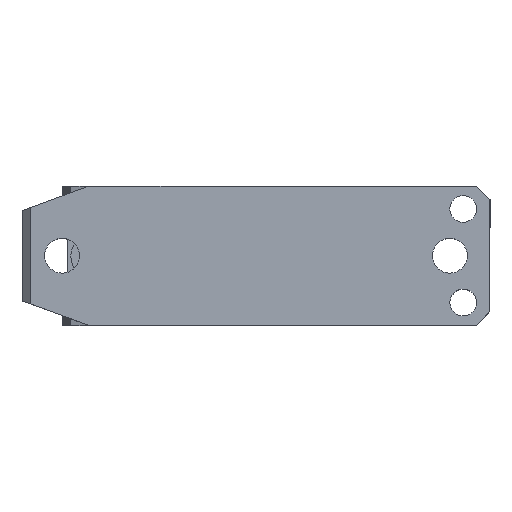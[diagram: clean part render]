
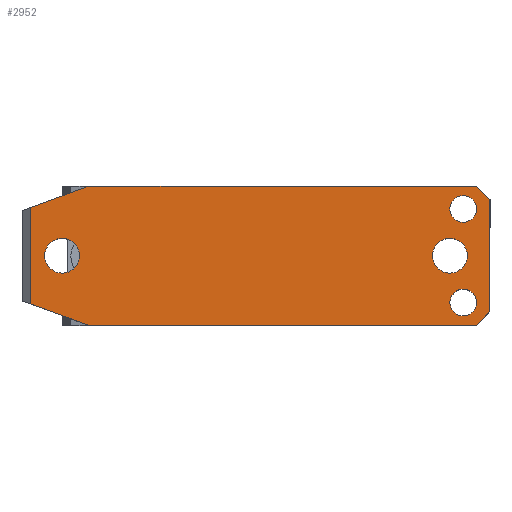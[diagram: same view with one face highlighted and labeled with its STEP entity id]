
A CAD part, top view. The second image highlights one B-rep face of the part: STEP entity #2952.
In plain terms, the highlighted planar face has unit normal (0, 0, 1).
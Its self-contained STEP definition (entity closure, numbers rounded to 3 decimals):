
#52 = CARTESIAN_POINT ( 'NONE',  ( -2., 0., 125. ) ) ;
#104 = LINE ( 'NONE', #5285, #9614 ) ;
#175 = EDGE_CURVE ( 'NONE', #11026, #11182, #8167, .T. ) ;
#183 = CARTESIAN_POINT ( 'NONE',  ( 153., 26., 125. ) ) ;
#233 = CARTESIAN_POINT ( 'NONE',  ( -2., 0., 125. ) ) ;
#560 = ORIENTED_EDGE ( 'NONE', *, *, #7445, .T. ) ;
#761 = VERTEX_POINT ( 'NONE', #10938 ) ;
#811 = CARTESIAN_POINT ( 'NONE',  ( -17., 16.901, 125. ) ) ;
#966 = DIRECTION ( 'NONE',  ( -1., 0., 0. ) ) ;
#1047 = DIRECTION ( 'NONE',  ( 0., 0., -1. ) ) ;
#1102 = DIRECTION ( 'NONE',  ( 0.707, -0.707, 0. ) ) ;
#1126 = CARTESIAN_POINT ( 'NONE',  ( 148., 17.5, 125. ) ) ;
#1176 = DIRECTION ( 'NONE',  ( -1., 0., 0. ) ) ;
#1211 = EDGE_CURVE ( 'NONE', #6724, #11054, #104, .T. ) ;
#1360 = AXIS2_PLACEMENT_3D ( 'NONE', #10586, #10540, #10313 ) ;
#1378 = CARTESIAN_POINT ( 'NONE',  ( 148., -17.5, 125. ) ) ;
#1381 = CIRCLE ( 'NONE', #2228, 5. ) ;
#1602 = VECTOR ( 'NONE', #8642, 1000. ) ;
#1707 = CARTESIAN_POINT ( 'NONE',  ( 143., 0., 125. ) ) ;
#1807 = EDGE_CURVE ( 'NONE', #761, #2510, #1381, .T. ) ;
#1955 = VECTOR ( 'NONE', #4390, 1000. ) ;
#1957 = CARTESIAN_POINT ( 'NONE',  ( 158., 21., 125. ) ) ;
#2064 = DIRECTION ( 'NONE',  ( -1., 0., 0. ) ) ;
#2103 = CIRCLE ( 'NONE', #2925, 6.5 ) ;
#2110 = EDGE_CURVE ( 'NONE', #2510, #761, #11078, .T. ) ;
#2165 = VERTEX_POINT ( 'NONE', #10407 ) ;
#2228 = AXIS2_PLACEMENT_3D ( 'NONE', #9043, #3535, #9988 ) ;
#2255 = EDGE_LOOP ( 'NONE', ( #7073, #2284 ) ) ;
#2284 = ORIENTED_EDGE ( 'NONE', *, *, #9055, .T. ) ;
#2312 = DIRECTION ( 'NONE',  ( -1., 0., 0. ) ) ;
#2327 = VECTOR ( 'NONE', #3971, 1000. ) ;
#2360 = ORIENTED_EDGE ( 'NONE', *, *, #1211, .F. ) ;
#2510 = VERTEX_POINT ( 'NONE', #3707 ) ;
#2547 = CARTESIAN_POINT ( 'NONE',  ( 4.5, 0., 125. ) ) ;
#2642 = DIRECTION ( 'NONE',  ( -1., 0., 0. ) ) ;
#2895 = ORIENTED_EDGE ( 'NONE', *, *, #8419, .T. ) ;
#2925 = AXIS2_PLACEMENT_3D ( 'NONE', #1707, #8144, #2642 ) ;
#2935 = VERTEX_POINT ( 'NONE', #2547 ) ;
#2949 = EDGE_CURVE ( 'NONE', #4973, #2165, #2103, .T. ) ;
#2952 = ADVANCED_FACE ( 'NONE', ( #11636, #9167, #9456, #6726, #4274 ), #5403, .F. ) ;
#3185 = ORIENTED_EDGE ( 'NONE', *, *, #2110, .T. ) ;
#3219 = EDGE_CURVE ( 'NONE', #3619, #8653, #9003, .T. ) ;
#3240 = ORIENTED_EDGE ( 'NONE', *, *, #3915, .F. ) ;
#3302 = VECTOR ( 'NONE', #1102, 1000. ) ;
#3535 = DIRECTION ( 'NONE',  ( 0., 0., -1. ) ) ;
#3567 = DIRECTION ( 'NONE',  ( -1., 0., 0. ) ) ;
#3619 = VERTEX_POINT ( 'NONE', #10493 ) ;
#3624 = CARTESIAN_POINT ( 'NONE',  ( 153., -17.5, 125. ) ) ;
#3707 = CARTESIAN_POINT ( 'NONE',  ( 153., 17.5, 125. ) ) ;
#3739 = ORIENTED_EDGE ( 'NONE', *, *, #8284, .T. ) ;
#3820 = LINE ( 'NONE', #5858, #10871 ) ;
#3839 = EDGE_LOOP ( 'NONE', ( #9235, #3185 ) ) ;
#3915 = EDGE_CURVE ( 'NONE', #7447, #3619, #9150, .T. ) ;
#3960 = CARTESIAN_POINT ( 'NONE',  ( 8., -26., 125. ) ) ;
#3971 = DIRECTION ( 'NONE',  ( 1., 0., 0. ) ) ;
#4093 = ORIENTED_EDGE ( 'NONE', *, *, #2949, .T. ) ;
#4137 = EDGE_LOOP ( 'NONE', ( #3739, #4093 ) ) ;
#4160 = ORIENTED_EDGE ( 'NONE', *, *, #10103, .F. ) ;
#4195 = EDGE_CURVE ( 'NONE', #10674, #7063, #3820, .T. ) ;
#4212 = CIRCLE ( 'NONE', #10199, 6.5 ) ;
#4274 = FACE_OUTER_BOUND ( 'NONE', #10759, .T. ) ;
#4362 = DIRECTION ( 'NONE',  ( -0.707, -0.707, 0. ) ) ;
#4390 = DIRECTION ( 'NONE',  ( 1., 0., 0. ) ) ;
#4712 = CARTESIAN_POINT ( 'NONE',  ( 158., -21., 125. ) ) ;
#4847 = CARTESIAN_POINT ( 'NONE',  ( 143., -17.5, 125. ) ) ;
#4973 = VERTEX_POINT ( 'NONE', #10418 ) ;
#5085 = LINE ( 'NONE', #10421, #2327 ) ;
#5221 = CARTESIAN_POINT ( 'NONE',  ( -14., -17.993, 125. ) ) ;
#5285 = CARTESIAN_POINT ( 'NONE',  ( 153., -26., 125. ) ) ;
#5315 = CIRCLE ( 'NONE', #7165, 6.5 ) ;
#5403 = PLANE ( 'NONE',  #5421 ) ;
#5421 = AXIS2_PLACEMENT_3D ( 'NONE', #11849, #9087, #3567 ) ;
#5479 = ORIENTED_EDGE ( 'NONE', *, *, #3219, .F. ) ;
#5684 = VECTOR ( 'NONE', #5876, 1000. ) ;
#5858 = CARTESIAN_POINT ( 'NONE',  ( -17., -16.901, 125. ) ) ;
#5874 = CARTESIAN_POINT ( 'NONE',  ( 158., 26., 125. ) ) ;
#5876 = DIRECTION ( 'NONE',  ( 0., -1., 0. ) ) ;
#6043 = ORIENTED_EDGE ( 'NONE', *, *, #4195, .F. ) ;
#6298 = EDGE_CURVE ( 'NONE', #9672, #6724, #6819, .T. ) ;
#6352 = CIRCLE ( 'NONE', #11811, 5. ) ;
#6409 = VERTEX_POINT ( 'NONE', #9694 ) ;
#6497 = DIRECTION ( 'NONE',  ( 0., 0., -1. ) ) ;
#6565 = CARTESIAN_POINT ( 'NONE',  ( 143., 0., 125. ) ) ;
#6701 = DIRECTION ( 'NONE',  ( 0., 0., -1. ) ) ;
#6714 = VECTOR ( 'NONE', #9123, 1000. ) ;
#6724 = VERTEX_POINT ( 'NONE', #4712 ) ;
#6726 = FACE_BOUND ( 'NONE', #4137, .T. ) ;
#6819 = LINE ( 'NONE', #5874, #1602 ) ;
#6842 = EDGE_CURVE ( 'NONE', #10674, #11054, #5085, .T. ) ;
#7063 = VERTEX_POINT ( 'NONE', #5221 ) ;
#7073 = ORIENTED_EDGE ( 'NONE', *, *, #10615, .T. ) ;
#7165 = AXIS2_PLACEMENT_3D ( 'NONE', #6565, #1047, #7492 ) ;
#7357 = AXIS2_PLACEMENT_3D ( 'NONE', #233, #6701, #1176 ) ;
#7445 = EDGE_CURVE ( 'NONE', #11182, #11026, #6352, .T. ) ;
#7447 = VERTEX_POINT ( 'NONE', #10580 ) ;
#7477 = ORIENTED_EDGE ( 'NONE', *, *, #175, .T. ) ;
#7492 = DIRECTION ( 'NONE',  ( -1., 0., 0. ) ) ;
#7559 = AXIS2_PLACEMENT_3D ( 'NONE', #1126, #7577, #2064 ) ;
#7577 = DIRECTION ( 'NONE',  ( 0., 0., -1. ) ) ;
#7825 = DIRECTION ( 'NONE',  ( 0., 0., -1. ) ) ;
#8028 = CARTESIAN_POINT ( 'NONE',  ( -17., 26., 125. ) ) ;
#8098 = LINE ( 'NONE', #8597, #5684 ) ;
#8144 = DIRECTION ( 'NONE',  ( 0., 0., -1. ) ) ;
#8167 = CIRCLE ( 'NONE', #1360, 5. ) ;
#8284 = EDGE_CURVE ( 'NONE', #2165, #4973, #5315, .T. ) ;
#8419 = EDGE_CURVE ( 'NONE', #7447, #7063, #8098, .T. ) ;
#8597 = CARTESIAN_POINT ( 'NONE',  ( -14., 26., 125. ) ) ;
#8599 = EDGE_LOOP ( 'NONE', ( #560, #7477 ) ) ;
#8642 = DIRECTION ( 'NONE',  ( 0., -1., 0. ) ) ;
#8653 = VERTEX_POINT ( 'NONE', #8676 ) ;
#8676 = CARTESIAN_POINT ( 'NONE',  ( 153., 26., 125. ) ) ;
#9003 = LINE ( 'NONE', #8028, #1955 ) ;
#9043 = CARTESIAN_POINT ( 'NONE',  ( 148., 17.5, 125. ) ) ;
#9055 = EDGE_CURVE ( 'NONE', #2935, #6409, #4212, .T. ) ;
#9087 = DIRECTION ( 'NONE',  ( 0., 0., -1. ) ) ;
#9123 = DIRECTION ( 'NONE',  ( 0.94, 0.342, 0. ) ) ;
#9150 = LINE ( 'NONE', #811, #6714 ) ;
#9167 = FACE_BOUND ( 'NONE', #3839, .T. ) ;
#9218 = CARTESIAN_POINT ( 'NONE',  ( 153., -26., 125. ) ) ;
#9235 = ORIENTED_EDGE ( 'NONE', *, *, #1807, .T. ) ;
#9456 = FACE_BOUND ( 'NONE', #2255, .T. ) ;
#9506 = ORIENTED_EDGE ( 'NONE', *, *, #6298, .F. ) ;
#9614 = VECTOR ( 'NONE', #4362, 1000. ) ;
#9672 = VERTEX_POINT ( 'NONE', #1957 ) ;
#9694 = CARTESIAN_POINT ( 'NONE',  ( -8.5, 0., 125. ) ) ;
#9988 = DIRECTION ( 'NONE',  ( -1., 0., 0. ) ) ;
#10090 = LINE ( 'NONE', #183, #3302 ) ;
#10103 = EDGE_CURVE ( 'NONE', #8653, #9672, #10090, .T. ) ;
#10199 = AXIS2_PLACEMENT_3D ( 'NONE', #52, #6497, #966 ) ;
#10313 = DIRECTION ( 'NONE',  ( -1., 0., 0. ) ) ;
#10407 = CARTESIAN_POINT ( 'NONE',  ( 136.5, 0., 125. ) ) ;
#10418 = CARTESIAN_POINT ( 'NONE',  ( 149.5, 0., 125. ) ) ;
#10421 = CARTESIAN_POINT ( 'NONE',  ( -17., -26., 125. ) ) ;
#10449 = DIRECTION ( 'NONE',  ( -0.94, 0.342, 0. ) ) ;
#10493 = CARTESIAN_POINT ( 'NONE',  ( 8., 26., 125. ) ) ;
#10540 = DIRECTION ( 'NONE',  ( 0., 0., -1. ) ) ;
#10580 = CARTESIAN_POINT ( 'NONE',  ( -14., 17.993, 125. ) ) ;
#10586 = CARTESIAN_POINT ( 'NONE',  ( 148., -17.5, 125. ) ) ;
#10615 = EDGE_CURVE ( 'NONE', #6409, #2935, #11668, .T. ) ;
#10674 = VERTEX_POINT ( 'NONE', #3960 ) ;
#10759 = EDGE_LOOP ( 'NONE', ( #3240, #2895, #6043, #11648, #2360, #9506, #4160, #5479 ) ) ;
#10871 = VECTOR ( 'NONE', #10449, 1000. ) ;
#10938 = CARTESIAN_POINT ( 'NONE',  ( 143., 17.5, 125. ) ) ;
#11026 = VERTEX_POINT ( 'NONE', #3624 ) ;
#11054 = VERTEX_POINT ( 'NONE', #9218 ) ;
#11078 = CIRCLE ( 'NONE', #7559, 5. ) ;
#11182 = VERTEX_POINT ( 'NONE', #4847 ) ;
#11636 = FACE_BOUND ( 'NONE', #8599, .T. ) ;
#11648 = ORIENTED_EDGE ( 'NONE', *, *, #6842, .T. ) ;
#11668 = CIRCLE ( 'NONE', #7357, 6.5 ) ;
#11811 = AXIS2_PLACEMENT_3D ( 'NONE', #1378, #7825, #2312 ) ;
#11849 = CARTESIAN_POINT ( 'NONE',  ( -17., 26., 125. ) ) ;
